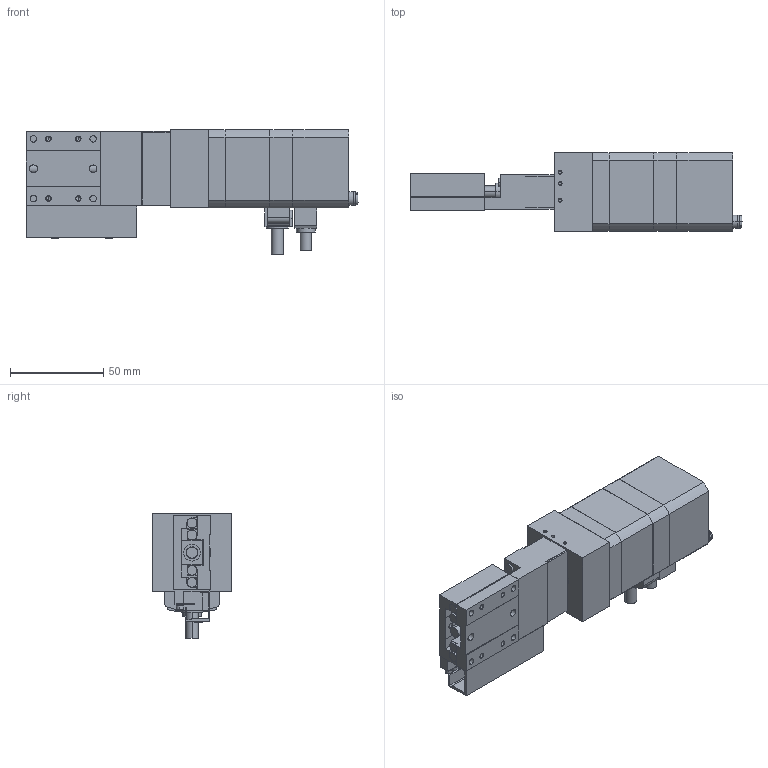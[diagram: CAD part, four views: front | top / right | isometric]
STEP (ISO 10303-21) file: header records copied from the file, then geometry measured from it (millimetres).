
FILE_DESCRIPTION(('STEP AP203'),'1');
FILE_NAME('C:/3D-Trans/3D_PG413T-R□-MA+231107.step','2024-02-26T08:21:35',(' '),(' '),'Spatial InterOp 3D',' ',' ');
FILE_SCHEMA(('CONFIG_CONTROL_DESIGN'));
Length unit declared in the file: millimetre
Products named in the file (6): 1; 2; 3; 4; 5; 6
Bounding box: 178 x 42 x 67 mm (x, y, z)
Volume: 216175.7 mm3; surface area: 53845.1 mm2
Topology: 6 solids, 6 shells, 608 faces, 1526 edges, 958 vertices
Faces by surface type: plane 327, cylinder 201, cone 76, torus 4
Entity records: 18294 total; most frequent: DIRECTION 3236, CARTESIAN_POINT 3134, ORIENTED_EDGE 2996, EDGE_CURVE 1498, AXIS2_PLACEMENT_3D 1130, LINE 976, VECTOR 976, VERTEX_POINT 958
